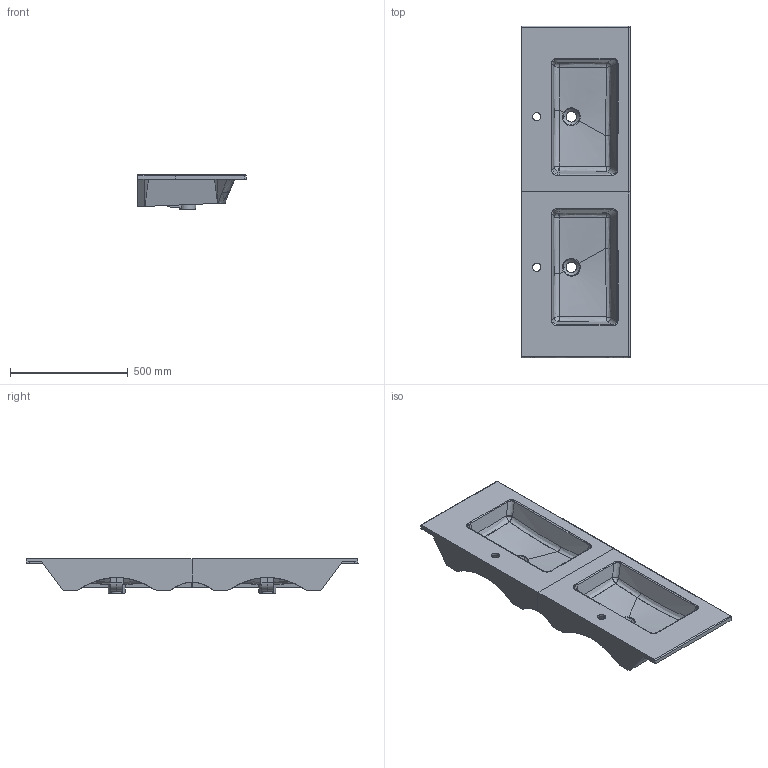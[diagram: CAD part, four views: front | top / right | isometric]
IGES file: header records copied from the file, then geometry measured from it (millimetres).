
Start section: START RECORD GO HERE.
Global section: file name: LAVABO 141x46 doppia vasca.igs; native system: DASSAULT SYSTEMES CATIA V5 R19 - www.3ds.com; preprocessor: CATIA Version 5 Release 19 SP 5 ; author: Luca; organization: DESKTOP-V7SON24; date: 20200124.163125; units: millimetre
Bounding box: 460 x 1411.4 x 147.5 mm (x, y, z)
Surface area: 2147168.2 mm2 (no closed solid volume)
Topology: 0 solids, 0 shells, 280 faces, 1425 edges, 1416 vertices
Faces by surface type: bspline 162, plane 70, revolution 42, extrusion 6
